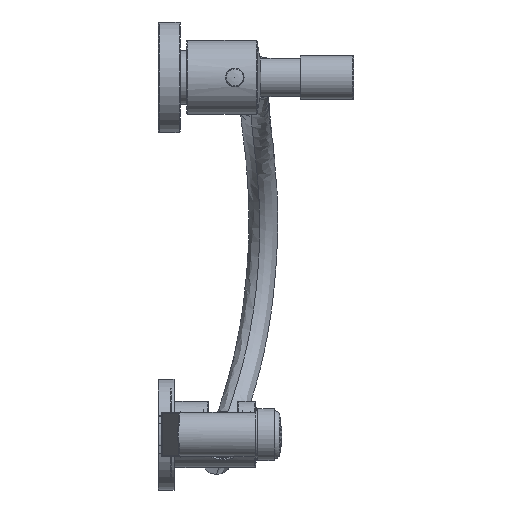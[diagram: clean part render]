
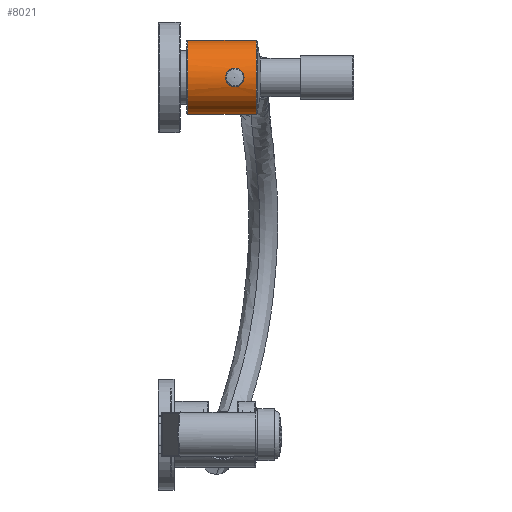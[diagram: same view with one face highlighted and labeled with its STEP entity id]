
A CAD part, front view. The second image highlights one B-rep face of the part: STEP entity #8021.
In plain terms, the highlighted cylindrical face has radius 20 mm (diameter 40 mm), a full revolution.
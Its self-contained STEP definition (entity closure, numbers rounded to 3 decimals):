
#272=FACE_BOUND('',#1526,.T.);
#973=FACE_OUTER_BOUND('',#1525,.T.);
#1525=EDGE_LOOP('',(#7073,#7074,#7075,#7076,#7077,#7078,#7079,#7080,#7081,
#7082));
#1526=EDGE_LOOP('',(#7083));
#1960=CIRCLE('',#8952,20.);
#1961=CIRCLE('',#8953,20.);
#1972=CIRCLE('',#8967,20.);
#1973=CIRCLE('',#8968,20.);
#2308=B_SPLINE_CURVE_WITH_KNOTS('',3,(#32720,#32721,#32722,#32723,#32724,
#32725,#32726,#32727,#32728,#32729,#32730,#32731,#32732,#32733,#32734,#32735,
#32736,#32737,#32738,#32739,#32740,#32741,#32742,#32743,#32744,#32745,#32746,
#32747,#32748,#32749,#32750,#32751,#32752,#32753),.UNSPECIFIED.,.T.,.F.,
(4,2,2,2,2,2,2,2,2,2,2,2,2,2,2,2,4),(0.,0.189,0.378,
0.568,0.757,0.946,1.135,
1.324,1.514,1.703,1.892,2.081,
2.271,2.46,2.649,2.838,3.027),
 .UNSPECIFIED.);
#2309=B_SPLINE_CURVE_WITH_KNOTS('',3,(#32757,#32758,#32759,#32760,#32761,
#32762,#32763,#32764,#32765,#32766,#32767,#32768,#32769,#32770,#32771,#32772,
#32773,#32774),.UNSPECIFIED.,.F.,.F.,(4,2,2,2,2,2,2,2,4),(-2.271,
-2.081,-1.892,-1.703,-1.514,
-1.324,-1.135,-0.946,-0.757),
 .UNSPECIFIED.);
#2310=B_SPLINE_CURVE_WITH_KNOTS('',3,(#32776,#32777,#32778,#32779,#32780,
#32781,#32782,#32783,#32784,#32785,#32786,#32787,#32788,#32789,#32790,#32791,
#32792,#32793,#32794),.UNSPECIFIED.,.F.,.F.,(4,2,2,2,3,2,2,2,4),(-0.757,
-0.568,-0.378,-0.189,0.,0.189,
0.378,0.568,0.757),.UNSPECIFIED.);
#2642=LINE('',#32825,#2975);
#2643=LINE('',#32826,#2976);
#2975=VECTOR('',#11006,20.);
#2976=VECTOR('',#11007,20.);
#3661=VERTEX_POINT('',#32612);
#3662=VERTEX_POINT('',#32614);
#3671=VERTEX_POINT('',#32638);
#3672=VERTEX_POINT('',#32639);
#3681=VERTEX_POINT('',#32718);
#3682=VERTEX_POINT('',#32755);
#3683=VERTEX_POINT('',#32756);
#4799=EDGE_CURVE('',#3662,#3661,#1960,.T.);
#4800=EDGE_CURVE('',#3661,#3662,#1961,.T.);
#4811=EDGE_CURVE('',#3671,#3672,#1972,.T.);
#4812=EDGE_CURVE('',#3672,#3671,#1973,.T.);
#4825=EDGE_CURVE('',#3681,#3681,#2308,.T.);
#4826=EDGE_CURVE('',#3682,#3683,#2309,.T.);
#4828=EDGE_CURVE('',#3683,#3682,#2310,.T.);
#4830=EDGE_CURVE('',#3671,#3682,#2642,.T.);
#4831=EDGE_CURVE('',#3683,#3662,#2643,.T.);
#7073=ORIENTED_EDGE('',*,*,#4811,.T.);
#7074=ORIENTED_EDGE('',*,*,#4812,.T.);
#7075=ORIENTED_EDGE('',*,*,#4830,.T.);
#7076=ORIENTED_EDGE('',*,*,#4826,.T.);
#7077=ORIENTED_EDGE('',*,*,#4831,.T.);
#7078=ORIENTED_EDGE('',*,*,#4799,.T.);
#7079=ORIENTED_EDGE('',*,*,#4800,.T.);
#7080=ORIENTED_EDGE('',*,*,#4831,.F.);
#7081=ORIENTED_EDGE('',*,*,#4828,.T.);
#7082=ORIENTED_EDGE('',*,*,#4830,.F.);
#7083=ORIENTED_EDGE('',*,*,#4825,.T.);
#7554=CYLINDRICAL_SURFACE('',#8985,20.);
#8021=ADVANCED_FACE('',(#973,#272),#7554,.T.);
#8952=AXIS2_PLACEMENT_3D('',#32615,#10936,#10937);
#8953=AXIS2_PLACEMENT_3D('',#32616,#10938,#10939);
#8967=AXIS2_PLACEMENT_3D('',#32640,#10966,#10967);
#8968=AXIS2_PLACEMENT_3D('',#32641,#10968,#10969);
#8985=AXIS2_PLACEMENT_3D('',#32824,#11004,#11005);
#10936=DIRECTION('center_axis',(-1.,0.,0.));
#10937=DIRECTION('ref_axis',(0.,0.,-1.));
#10938=DIRECTION('center_axis',(-1.,0.,0.));
#10939=DIRECTION('ref_axis',(0.,0.,-1.));
#10966=DIRECTION('center_axis',(1.,0.,0.));
#10967=DIRECTION('ref_axis',(0.,0.,-1.));
#10968=DIRECTION('center_axis',(1.,0.,0.));
#10969=DIRECTION('ref_axis',(0.,0.,-1.));
#11004=DIRECTION('center_axis',(-1.,0.,0.));
#11005=DIRECTION('ref_axis',(0.,0.,1.));
#11006=DIRECTION('',(1.,0.,0.));
#11007=DIRECTION('',(1.,0.,0.));
#32612=CARTESIAN_POINT('',(53.028,0.,20.));
#32614=CARTESIAN_POINT('',(53.028,0.,-20.));
#32615=CARTESIAN_POINT('Origin',(53.028,0.,0.));
#32616=CARTESIAN_POINT('Origin',(53.028,0.,0.));
#32638=CARTESIAN_POINT('',(15.93,0.,-20.));
#32639=CARTESIAN_POINT('',(15.93,0.,20.));
#32640=CARTESIAN_POINT('Origin',(15.93,0.,0.));
#32641=CARTESIAN_POINT('Origin',(15.93,0.,0.));
#32718=CARTESIAN_POINT('',(36.43,0.,20.));
#32720=CARTESIAN_POINT('Ctrl Pts',(41.43,5.,19.365));
#32721=CARTESIAN_POINT('Ctrl Pts',(42.061,5.,19.365));
#32722=CARTESIAN_POINT('Ctrl Pts',(42.732,4.873,19.399));
#32723=CARTESIAN_POINT('Ctrl Pts',(43.963,4.362,19.52));
#32724=CARTESIAN_POINT('Ctrl Pts',(44.523,3.978,19.606));
#32725=CARTESIAN_POINT('Ctrl Pts',(45.408,3.093,19.764));
#32726=CARTESIAN_POINT('Ctrl Pts',(45.792,2.533,19.849));
#32727=CARTESIAN_POINT('Ctrl Pts',(46.303,1.302,19.967));
#32728=CARTESIAN_POINT('Ctrl Pts',(46.43,0.631,20.));
#32729=CARTESIAN_POINT('Ctrl Pts',(46.43,-0.631,20.));
#32730=CARTESIAN_POINT('Ctrl Pts',(46.303,-1.302,19.967));
#32731=CARTESIAN_POINT('Ctrl Pts',(45.792,-2.533,19.849));
#32732=CARTESIAN_POINT('Ctrl Pts',(45.408,-3.093,19.764));
#32733=CARTESIAN_POINT('Ctrl Pts',(44.523,-3.978,19.606));
#32734=CARTESIAN_POINT('Ctrl Pts',(43.963,-4.362,19.52));
#32735=CARTESIAN_POINT('Ctrl Pts',(42.732,-4.873,19.399));
#32736=CARTESIAN_POINT('Ctrl Pts',(42.061,-5.,19.365));
#32737=CARTESIAN_POINT('Ctrl Pts',(40.799,-5.,19.365));
#32738=CARTESIAN_POINT('Ctrl Pts',(40.128,-4.873,19.399));
#32739=CARTESIAN_POINT('Ctrl Pts',(38.897,-4.362,19.52));
#32740=CARTESIAN_POINT('Ctrl Pts',(38.337,-3.978,19.606));
#32741=CARTESIAN_POINT('Ctrl Pts',(37.452,-3.093,19.764));
#32742=CARTESIAN_POINT('Ctrl Pts',(37.068,-2.533,19.849));
#32743=CARTESIAN_POINT('Ctrl Pts',(36.557,-1.302,19.967));
#32744=CARTESIAN_POINT('Ctrl Pts',(36.43,-0.631,20.));
#32745=CARTESIAN_POINT('Ctrl Pts',(36.43,0.631,20.));
#32746=CARTESIAN_POINT('Ctrl Pts',(36.557,1.302,19.967));
#32747=CARTESIAN_POINT('Ctrl Pts',(37.068,2.533,19.849));
#32748=CARTESIAN_POINT('Ctrl Pts',(37.452,3.093,19.764));
#32749=CARTESIAN_POINT('Ctrl Pts',(38.337,3.978,19.606));
#32750=CARTESIAN_POINT('Ctrl Pts',(38.897,4.362,19.52));
#32751=CARTESIAN_POINT('Ctrl Pts',(40.128,4.873,19.399));
#32752=CARTESIAN_POINT('Ctrl Pts',(40.799,5.,19.365));
#32753=CARTESIAN_POINT('Ctrl Pts',(41.43,5.,19.365));
#32755=CARTESIAN_POINT('',(36.43,0.,-20.));
#32756=CARTESIAN_POINT('',(46.43,0.,-20.));
#32757=CARTESIAN_POINT('Ctrl Pts',(36.43,0.,-20.));
#32758=CARTESIAN_POINT('Ctrl Pts',(36.43,-0.631,-20.));
#32759=CARTESIAN_POINT('Ctrl Pts',(36.557,-1.302,-19.967));
#32760=CARTESIAN_POINT('Ctrl Pts',(37.068,-2.533,-19.849));
#32761=CARTESIAN_POINT('Ctrl Pts',(37.452,-3.093,-19.764));
#32762=CARTESIAN_POINT('Ctrl Pts',(38.337,-3.978,-19.606));
#32763=CARTESIAN_POINT('Ctrl Pts',(38.897,-4.362,-19.52));
#32764=CARTESIAN_POINT('Ctrl Pts',(40.128,-4.873,-19.399));
#32765=CARTESIAN_POINT('Ctrl Pts',(40.799,-5.,-19.365));
#32766=CARTESIAN_POINT('Ctrl Pts',(42.061,-5.,-19.365));
#32767=CARTESIAN_POINT('Ctrl Pts',(42.732,-4.873,-19.399));
#32768=CARTESIAN_POINT('Ctrl Pts',(43.963,-4.362,-19.52));
#32769=CARTESIAN_POINT('Ctrl Pts',(44.523,-3.978,-19.606));
#32770=CARTESIAN_POINT('Ctrl Pts',(45.408,-3.093,-19.764));
#32771=CARTESIAN_POINT('Ctrl Pts',(45.792,-2.533,-19.849));
#32772=CARTESIAN_POINT('Ctrl Pts',(46.303,-1.302,-19.967));
#32773=CARTESIAN_POINT('Ctrl Pts',(46.43,-0.631,-20.));
#32774=CARTESIAN_POINT('Ctrl Pts',(46.43,0.,-20.));
#32776=CARTESIAN_POINT('Ctrl Pts',(46.43,0.,-20.));
#32777=CARTESIAN_POINT('Ctrl Pts',(46.43,0.631,-20.));
#32778=CARTESIAN_POINT('Ctrl Pts',(46.303,1.302,-19.967));
#32779=CARTESIAN_POINT('Ctrl Pts',(45.792,2.533,-19.849));
#32780=CARTESIAN_POINT('Ctrl Pts',(45.408,3.093,-19.764));
#32781=CARTESIAN_POINT('Ctrl Pts',(44.523,3.978,-19.606));
#32782=CARTESIAN_POINT('Ctrl Pts',(43.963,4.362,-19.52));
#32783=CARTESIAN_POINT('Ctrl Pts',(42.732,4.873,-19.399));
#32784=CARTESIAN_POINT('Ctrl Pts',(42.061,5.,-19.365));
#32785=CARTESIAN_POINT('Ctrl Pts',(41.43,5.,-19.365));
#32786=CARTESIAN_POINT('Ctrl Pts',(40.799,5.,-19.365));
#32787=CARTESIAN_POINT('Ctrl Pts',(40.128,4.873,-19.399));
#32788=CARTESIAN_POINT('Ctrl Pts',(38.897,4.362,-19.52));
#32789=CARTESIAN_POINT('Ctrl Pts',(38.337,3.978,-19.606));
#32790=CARTESIAN_POINT('Ctrl Pts',(37.452,3.093,-19.764));
#32791=CARTESIAN_POINT('Ctrl Pts',(37.068,2.533,-19.849));
#32792=CARTESIAN_POINT('Ctrl Pts',(36.557,1.302,-19.967));
#32793=CARTESIAN_POINT('Ctrl Pts',(36.43,0.631,-20.));
#32794=CARTESIAN_POINT('Ctrl Pts',(36.43,0.,-20.));
#32824=CARTESIAN_POINT('Origin',(0.,0.,0.));
#32825=CARTESIAN_POINT('',(0.,0.,-20.));
#32826=CARTESIAN_POINT('',(0.,0.,-20.));
